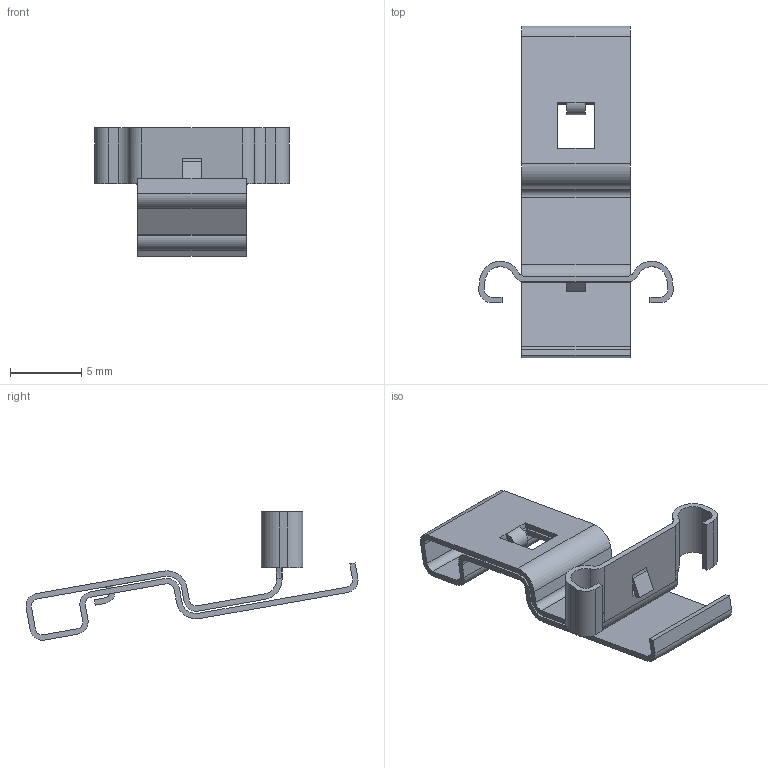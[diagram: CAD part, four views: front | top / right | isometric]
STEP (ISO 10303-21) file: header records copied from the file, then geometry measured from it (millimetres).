
FILE_DESCRIPTION((''),'2;1');
FILE_NAME('C-745779-2','2010-01-19T',('workeradm'),(''),'PRO/ENGINEER BY PARAMETRIC TECHNOLOGY CORPORATION, 2008380','PRO/ENGINEER BY PARAMETRIC TECHNOLOGY CORPORATION, 2008380','');
FILE_SCHEMA(('AUTOMOTIVE_DESIGN { 1 0 10303 214 1 1 1 1 }'));
Length unit declared in the file: inch
Products named in the file (1): C-745779-2
Bounding box: 13.69 x 23.38 x 9.05 mm (x, y, z)
Volume: 175.2 mm3; surface area: 991.2 mm2
Topology: 1 solids, 1 shells, 102 faces, 293 edges, 193 vertices
Faces by surface type: plane 60, cylinder 36, bspline 6
Entity records: 3516 total; most frequent: CARTESIAN_POINT 727, ORIENTED_EDGE 586, DIRECTION 562, EDGE_CURVE 293, VECTOR 216, LINE 216, VERTEX_POINT 193, AXIS2_PLACEMENT_3D 173
